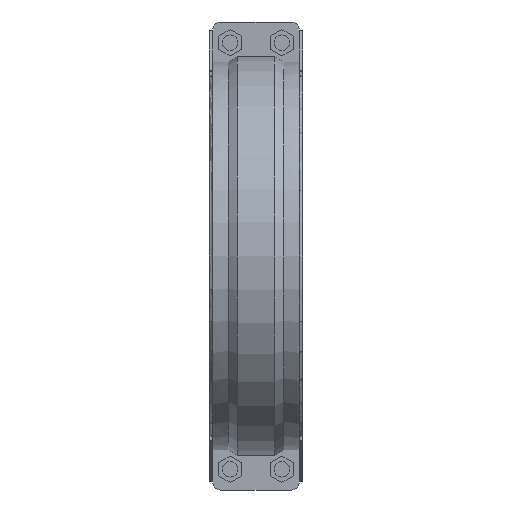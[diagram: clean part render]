
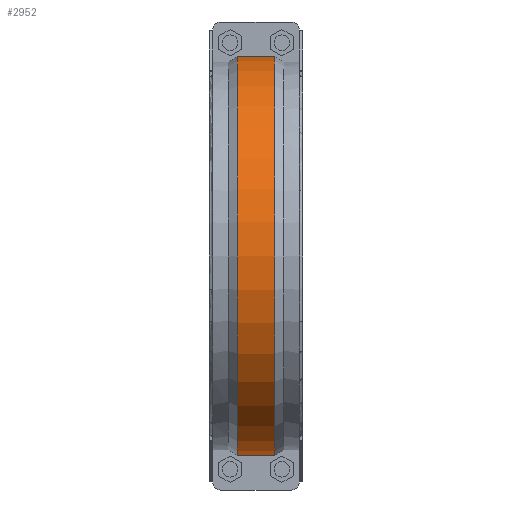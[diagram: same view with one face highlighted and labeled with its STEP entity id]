
A CAD part, front view. The second image highlights one B-rep face of the part: STEP entity #2952.
In plain terms, the highlighted cylindrical face has radius 244.724 mm (diameter 489.448 mm), a partial arc.
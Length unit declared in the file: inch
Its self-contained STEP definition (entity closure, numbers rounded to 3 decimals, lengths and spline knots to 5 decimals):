
#341=FACE_OUTER_BOUND('',#515,.T.);
#515=EDGE_LOOP('',(#2506,#2507,#2508,#2509));
#632=LINE('',#4445,#899);
#792=LINE('',#4981,#1059);
#899=VECTOR('',#3534,0.3937);
#1059=VECTOR('',#3972,0.3937);
#1121=CIRCLE('',#3119,9.63481);
#1155=CIRCLE('',#3218,9.63481);
#1269=VERTEX_POINT('',#4440);
#1270=VERTEX_POINT('',#4444);
#1315=VERTEX_POINT('',#4661);
#1414=VERTEX_POINT('',#4977);
#1571=EDGE_CURVE('',#1270,#1269,#632,.T.);
#1642=EDGE_CURVE('',#1315,#1269,#1121,.T.);
#1796=EDGE_CURVE('',#1315,#1414,#792,.T.);
#1803=EDGE_CURVE('',#1414,#1270,#1155,.T.);
#2506=ORIENTED_EDGE('',*,*,#1571,.T.);
#2507=ORIENTED_EDGE('',*,*,#1642,.F.);
#2508=ORIENTED_EDGE('',*,*,#1796,.T.);
#2509=ORIENTED_EDGE('',*,*,#1803,.T.);
#2648=CYLINDRICAL_SURFACE('',#3217,9.63481);
#2952=ADVANCED_FACE('',(#341),#2648,.T.);
#3119=AXIS2_PLACEMENT_3D('',#4665,#3669,#3670);
#3217=AXIS2_PLACEMENT_3D('',#4995,#3991,#3992);
#3218=AXIS2_PLACEMENT_3D('',#4996,#3993,#3994);
#3534=DIRECTION('',(1.,0.,0.));
#3669=DIRECTION('center_axis',(1.,0.,0.));
#3670=DIRECTION('ref_axis',(0.,0.,-1.));
#3972=DIRECTION('',(-1.,0.,0.));
#3991=DIRECTION('center_axis',(1.,0.,0.));
#3992=DIRECTION('ref_axis',(0.,-1.,0.));
#3993=DIRECTION('center_axis',(1.,0.,0.));
#3994=DIRECTION('ref_axis',(0.,0.,-1.));
#4440=CARTESIAN_POINT('',(0.9,-0.375,-9.62751));
#4444=CARTESIAN_POINT('',(-0.9,-0.375,-9.62751));
#4445=CARTESIAN_POINT('',(0.45,-0.375,-9.62751));
#4661=CARTESIAN_POINT('',(0.9,-0.375,9.62751));
#4665=CARTESIAN_POINT('Origin',(0.9,0.,0.));
#4977=CARTESIAN_POINT('',(-0.9,-0.375,9.62751));
#4981=CARTESIAN_POINT('',(0.45,-0.375,9.62751));
#4995=CARTESIAN_POINT('Origin',(0.45,0.,0.));
#4996=CARTESIAN_POINT('Origin',(-0.9,0.,0.));
